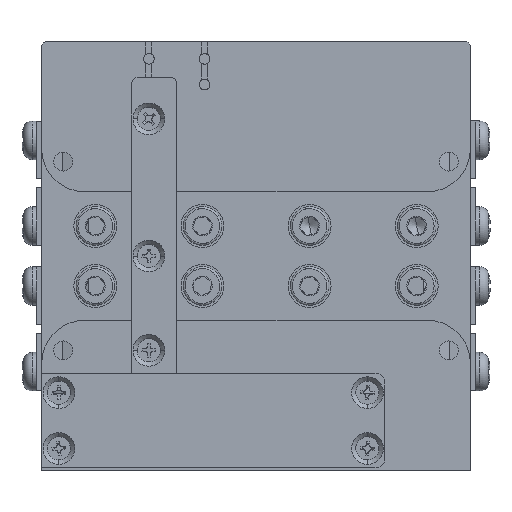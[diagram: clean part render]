
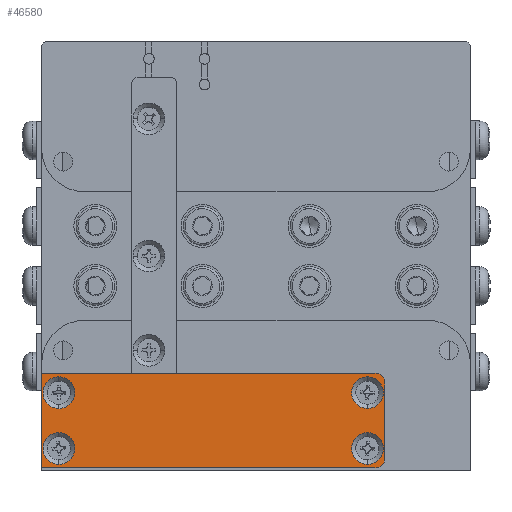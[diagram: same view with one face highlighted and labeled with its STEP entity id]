
A CAD part, front view. The second image highlights one B-rep face of the part: STEP entity #46580.
In plain terms, the highlighted planar face has unit normal (0, -1, 0).
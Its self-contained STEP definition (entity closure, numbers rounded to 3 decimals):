
#888 = CIRCLE ( 'NONE', #41463, 1.85 ) ;
#1368 = CARTESIAN_POINT ( 'NONE',  ( 13., -0.3, -22.45 ) ) ;
#1453 = CIRCLE ( 'NONE', #27680, 1. ) ;
#1949 = VERTEX_POINT ( 'NONE', #11637 ) ;
#2185 = FACE_BOUND ( 'NONE', #20473, .T. ) ;
#2335 = DIRECTION ( 'NONE',  ( 0., 0., -1. ) ) ;
#2772 = DIRECTION ( 'NONE',  ( 0., -1., 0. ) ) ;
#2788 = ORIENTED_EDGE ( 'NONE', *, *, #36767, .F. ) ;
#2796 = CARTESIAN_POINT ( 'NONE',  ( 13., -0.3, -15.95 ) ) ;
#3113 = DIRECTION ( 'NONE',  ( 0., 0., 1. ) ) ;
#4807 = EDGE_LOOP ( 'NONE', ( #13706, #2788 ) ) ;
#5010 = CARTESIAN_POINT ( 'NONE',  ( -25., -0.3, -13.7 ) ) ;
#5573 = CARTESIAN_POINT ( 'NONE',  ( 14., -0.3, -14.7 ) ) ;
#5861 = ORIENTED_EDGE ( 'NONE', *, *, #33328, .F. ) ;
#5960 = DIRECTION ( 'NONE',  ( 0., -1., 0. ) ) ;
#6889 = ORIENTED_EDGE ( 'NONE', *, *, #11882, .F. ) ;
#7311 = ORIENTED_EDGE ( 'NONE', *, *, #23212, .T. ) ;
#7403 = ORIENTED_EDGE ( 'NONE', *, *, #25112, .F. ) ;
#7407 = CARTESIAN_POINT ( 'NONE',  ( 14., -0.3, -13.7 ) ) ;
#7798 = DIRECTION ( 'NONE',  ( 0., 0., 1. ) ) ;
#8323 = ORIENTED_EDGE ( 'NONE', *, *, #27282, .F. ) ;
#8560 = AXIS2_PLACEMENT_3D ( 'NONE', #28327, #42749, #39207 ) ;
#8697 = ORIENTED_EDGE ( 'NONE', *, *, #38851, .T. ) ;
#8833 = CIRCLE ( 'NONE', #43431, 1.85 ) ;
#9493 = DIRECTION ( 'NONE',  ( 0., 0., -1. ) ) ;
#10389 = DIRECTION ( 'NONE',  ( 0., 1., 0. ) ) ;
#11031 = DIRECTION ( 'NONE',  ( 0., 0., -1. ) ) ;
#11579 = EDGE_CURVE ( 'NONE', #23363, #36279, #39217, .T. ) ;
#11637 = CARTESIAN_POINT ( 'NONE',  ( 13., -0.3, -14.1 ) ) ;
#11882 = EDGE_CURVE ( 'NONE', #1949, #35128, #888, .T. ) ;
#12050 = CARTESIAN_POINT ( 'NONE',  ( 15., -0.3, -24.7 ) ) ;
#12408 = CARTESIAN_POINT ( 'NONE',  ( 13., -0.3, -17.8 ) ) ;
#12442 = DIRECTION ( 'NONE',  ( 0., 0., 1. ) ) ;
#12734 = CARTESIAN_POINT ( 'NONE',  ( 13., -0.3, -24.3 ) ) ;
#13706 = ORIENTED_EDGE ( 'NONE', *, *, #30645, .F. ) ;
#13751 = CARTESIAN_POINT ( 'NONE',  ( -25., -0.3, -13.7 ) ) ;
#13864 = VERTEX_POINT ( 'NONE', #31328 ) ;
#14302 = CARTESIAN_POINT ( 'NONE',  ( -25., -0.3, -24.7 ) ) ;
#15220 = ORIENTED_EDGE ( 'NONE', *, *, #36158, .F. ) ;
#15379 = CARTESIAN_POINT ( 'NONE',  ( -23., -0.3, -14.1 ) ) ;
#15618 = ORIENTED_EDGE ( 'NONE', *, *, #27744, .T. ) ;
#15720 = DIRECTION ( 'NONE',  ( 0., -1., 0. ) ) ;
#16524 = FACE_BOUND ( 'NONE', #4807, .T. ) ;
#16864 = AXIS2_PLACEMENT_3D ( 'NONE', #2796, #31511, #45923 ) ;
#17190 = CARTESIAN_POINT ( 'NONE',  ( 14., -0.3, -23.7 ) ) ;
#17741 = CIRCLE ( 'NONE', #19254, 1.85 ) ;
#18020 = ORIENTED_EDGE ( 'NONE', *, *, #37720, .F. ) ;
#18297 = DIRECTION ( 'NONE',  ( 0., -1., 0. ) ) ;
#18703 = VECTOR ( 'NONE', #36999, 1000. ) ;
#18787 = VERTEX_POINT ( 'NONE', #15379 ) ;
#18928 = DIRECTION ( 'NONE',  ( 0., -1., 0. ) ) ;
#18978 = CARTESIAN_POINT ( 'NONE',  ( 13., -0.3, -20.6 ) ) ;
#19254 = AXIS2_PLACEMENT_3D ( 'NONE', #26174, #18928, #37308 ) ;
#19589 = CARTESIAN_POINT ( 'NONE',  ( -23., -0.3, -22.45 ) ) ;
#19864 = CARTESIAN_POINT ( 'NONE',  ( -25., -0.3, -24.7 ) ) ;
#19882 = DIRECTION ( 'NONE',  ( 0., -1., 0. ) ) ;
#19995 = VERTEX_POINT ( 'NONE', #18978 ) ;
#20270 = DIRECTION ( 'NONE',  ( 0., -1., 0. ) ) ;
#20473 = EDGE_LOOP ( 'NONE', ( #15220, #7403 ) ) ;
#21384 = EDGE_LOOP ( 'NONE', ( #7311, #38937, #8697, #15618, #18020, #31956 ) ) ;
#21820 = CARTESIAN_POINT ( 'NONE',  ( -23., -0.3, -15.95 ) ) ;
#21890 = EDGE_LOOP ( 'NONE', ( #5861, #8323 ) ) ;
#22266 = CARTESIAN_POINT ( 'NONE',  ( -23., -0.3, -24.3 ) ) ;
#23212 = EDGE_CURVE ( 'NONE', #23363, #13864, #34024, .T. ) ;
#23363 = VERTEX_POINT ( 'NONE', #24080 ) ;
#23764 = FACE_BOUND ( 'NONE', #29223, .T. ) ;
#24080 = CARTESIAN_POINT ( 'NONE',  ( -25., -0.3, -24.7 ) ) ;
#24357 = DIRECTION ( 'NONE',  ( 0., -1., 0. ) ) ;
#24452 = CARTESIAN_POINT ( 'NONE',  ( -5., -0.3, -24.7 ) ) ;
#24705 = CARTESIAN_POINT ( 'NONE',  ( 15., -0.3, -14.7 ) ) ;
#25112 = EDGE_CURVE ( 'NONE', #18787, #42189, #40658, .T. ) ;
#25217 = VERTEX_POINT ( 'NONE', #22266 ) ;
#25973 = DIRECTION ( 'NONE',  ( 1., 0., 0. ) ) ;
#25996 = VERTEX_POINT ( 'NONE', #7407 ) ;
#26174 = CARTESIAN_POINT ( 'NONE',  ( -23., -0.3, -15.95 ) ) ;
#27282 = EDGE_CURVE ( 'NONE', #41174, #25217, #43449, .T. ) ;
#27443 = CARTESIAN_POINT ( 'NONE',  ( 13., -0.3, -22.45 ) ) ;
#27680 = AXIS2_PLACEMENT_3D ( 'NONE', #5573, #19882, #12442 ) ;
#27744 = EDGE_CURVE ( 'NONE', #36304, #25996, #1453, .T. ) ;
#27970 = CIRCLE ( 'NONE', #35528, 1.85 ) ;
#28327 = CARTESIAN_POINT ( 'NONE',  ( -23., -0.3, -22.45 ) ) ;
#28536 = VECTOR ( 'NONE', #7798, 1000. ) ;
#29143 = VERTEX_POINT ( 'NONE', #31656 ) ;
#29223 = EDGE_LOOP ( 'NONE', ( #44605, #6889 ) ) ;
#30645 = EDGE_CURVE ( 'NONE', #36566, #19995, #27970, .T. ) ;
#31328 = CARTESIAN_POINT ( 'NONE',  ( 14., -0.3, -24.7 ) ) ;
#31511 = DIRECTION ( 'NONE',  ( 0., -1., 0. ) ) ;
#31656 = CARTESIAN_POINT ( 'NONE',  ( 15., -0.3, -23.7 ) ) ;
#31956 = ORIENTED_EDGE ( 'NONE', *, *, #11579, .F. ) ;
#32679 = DIRECTION ( 'NONE',  ( 0., 0., -1. ) ) ;
#33328 = EDGE_CURVE ( 'NONE', #25217, #41174, #34848, .T. ) ;
#34024 = LINE ( 'NONE', #19864, #43562 ) ;
#34397 = FACE_BOUND ( 'NONE', #21890, .T. ) ;
#34414 = AXIS2_PLACEMENT_3D ( 'NONE', #19589, #5960, #9493 ) ;
#34463 = CIRCLE ( 'NONE', #37523, 1. ) ;
#34848 = CIRCLE ( 'NONE', #8560, 1.85 ) ;
#35043 = EDGE_CURVE ( 'NONE', #35128, #1949, #37181, .T. ) ;
#35128 = VERTEX_POINT ( 'NONE', #12408 ) ;
#35204 = CARTESIAN_POINT ( 'NONE',  ( 13., -0.3, -15.95 ) ) ;
#35528 = AXIS2_PLACEMENT_3D ( 'NONE', #27443, #2772, #2335 ) ;
#36158 = EDGE_CURVE ( 'NONE', #42189, #18787, #17741, .T. ) ;
#36279 = VERTEX_POINT ( 'NONE', #13751 ) ;
#36304 = VERTEX_POINT ( 'NONE', #24705 ) ;
#36497 = AXIS2_PLACEMENT_3D ( 'NONE', #24452, #10389, #3113 ) ;
#36566 = VERTEX_POINT ( 'NONE', #12734 ) ;
#36767 = EDGE_CURVE ( 'NONE', #19995, #36566, #8833, .T. ) ;
#36880 = AXIS2_PLACEMENT_3D ( 'NONE', #21820, #18297, #32679 ) ;
#36999 = DIRECTION ( 'NONE',  ( 1., 0., 0. ) ) ;
#37181 = CIRCLE ( 'NONE', #16864, 1.85 ) ;
#37308 = DIRECTION ( 'NONE',  ( 0., 0., -1. ) ) ;
#37523 = AXIS2_PLACEMENT_3D ( 'NONE', #17190, #20270, #42386 ) ;
#37720 = EDGE_CURVE ( 'NONE', #36279, #25996, #40306, .T. ) ;
#38163 = FACE_OUTER_BOUND ( 'NONE', #21384, .T. ) ;
#38851 = EDGE_CURVE ( 'NONE', #29143, #36304, #43583, .T. ) ;
#38937 = ORIENTED_EDGE ( 'NONE', *, *, #40156, .T. ) ;
#39105 = VECTOR ( 'NONE', #45887, 1000. ) ;
#39207 = DIRECTION ( 'NONE',  ( 0., 0., -1. ) ) ;
#39217 = LINE ( 'NONE', #14302, #39105 ) ;
#40156 = EDGE_CURVE ( 'NONE', #13864, #29143, #34463, .T. ) ;
#40306 = LINE ( 'NONE', #5010, #18703 ) ;
#40658 = CIRCLE ( 'NONE', #36880, 1.85 ) ;
#41174 = VERTEX_POINT ( 'NONE', #46149 ) ;
#41463 = AXIS2_PLACEMENT_3D ( 'NONE', #35204, #24357, #46344 ) ;
#41918 = PLANE ( 'NONE',  #36497 ) ;
#42189 = VERTEX_POINT ( 'NONE', #42611 ) ;
#42386 = DIRECTION ( 'NONE',  ( 0., 0., 1. ) ) ;
#42611 = CARTESIAN_POINT ( 'NONE',  ( -23., -0.3, -17.8 ) ) ;
#42749 = DIRECTION ( 'NONE',  ( 0., -1., 0. ) ) ;
#43431 = AXIS2_PLACEMENT_3D ( 'NONE', #1368, #15720, #11031 ) ;
#43449 = CIRCLE ( 'NONE', #34414, 1.85 ) ;
#43562 = VECTOR ( 'NONE', #25973, 1000. ) ;
#43583 = LINE ( 'NONE', #12050, #28536 ) ;
#44605 = ORIENTED_EDGE ( 'NONE', *, *, #35043, .F. ) ;
#45887 = DIRECTION ( 'NONE',  ( 0., 0., 1. ) ) ;
#45923 = DIRECTION ( 'NONE',  ( 0., 0., -1. ) ) ;
#46149 = CARTESIAN_POINT ( 'NONE',  ( -23., -0.3, -20.6 ) ) ;
#46344 = DIRECTION ( 'NONE',  ( 0., 0., -1. ) ) ;
#46580 = ADVANCED_FACE ( 'NONE', ( #34397, #2185, #16524, #23764, #38163 ), #41918, .F. ) ;
